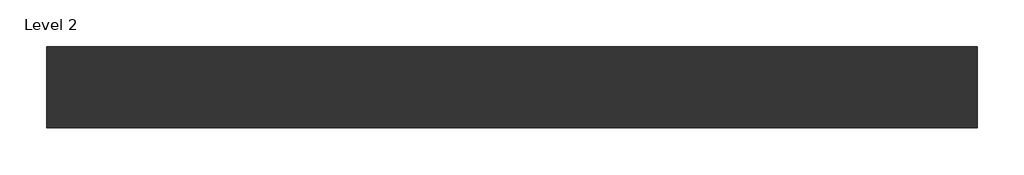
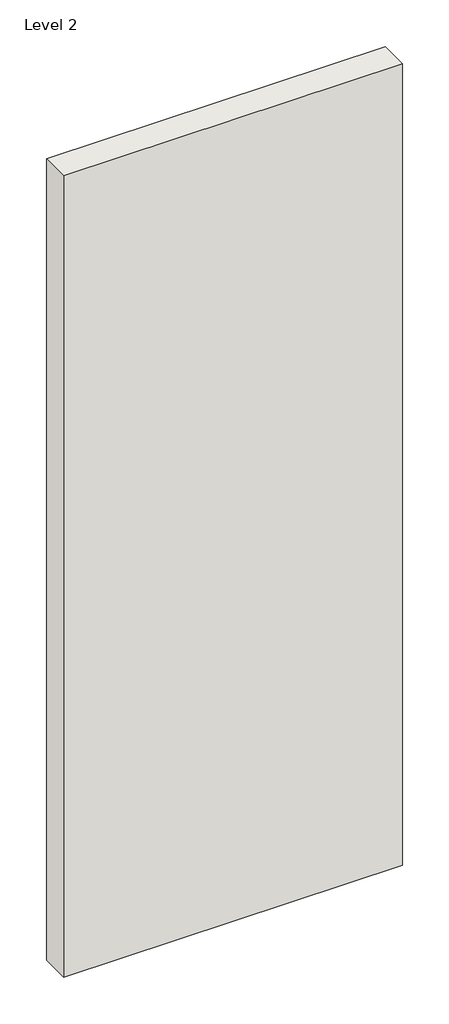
# One storey: 1 wall.
"""IFC4 building model written with IfcOpenShell, lengths in millimetres."""

from ifc_helpers import new_model, si_unit, frame, origin, place, context, project, spatial, polyline, outline, extrude, element, save

model = new_model("IFC4")

# Units and contexts
model_context = context("Model", 3, world=origin())
ifc_project = project(units=[si_unit("LENGTHUNIT", "METRE", prefix="MILLI")], contexts=[model_context])

# Site, building, storey
site = spatial("IfcSite", under=ifc_project)
building = spatial("IfcBuilding", under=site)
storey = spatial("IfcBuildingStorey", under=building, Name="Level 2", Elevation=4000.0)

# Wall
placement = place(None, origin())
element("IfcWall", 1, ObjectType="RIGIPS - 3.21.10_3.21.15 - EI 60, REI 60 (87.5) - 12dB", at=placement, inside=storey, context=model_context, shape_type="SweptSolid", body=[
    extrude(outline(polyline([(1000.0, -43.75), (0.0, -43.75), (0.0, 43.75), (1000.0, 43.75), (1000.0, -43.75)])), frame((0.0, 0.0, 4000.0), z_axis=(0.0, 0.0, 1.0), x_axis=(1.0, 0.0, 0.0)), (0.0, 0.0, 1.0), 2500.0),
])

save(model, "model.ifc")
